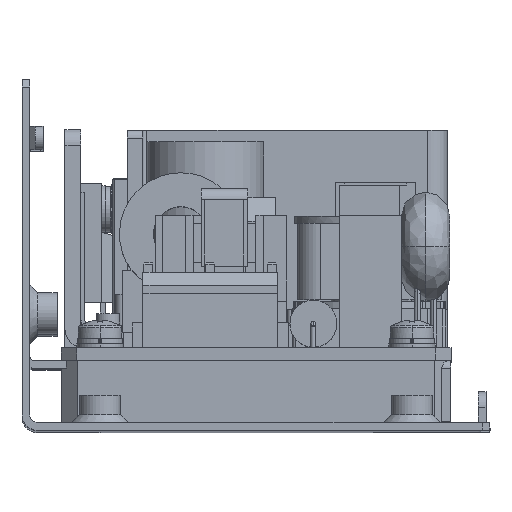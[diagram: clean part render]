
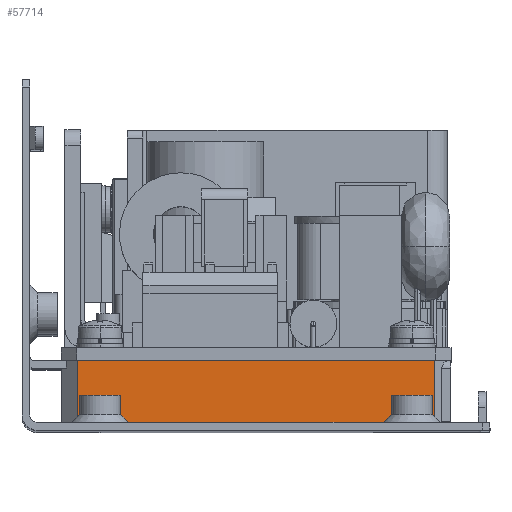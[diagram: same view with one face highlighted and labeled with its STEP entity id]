
A CAD part, top view. The second image highlights one B-rep face of the part: STEP entity #57714.
In plain terms, the highlighted planar face has unit normal (0, 0, 1).
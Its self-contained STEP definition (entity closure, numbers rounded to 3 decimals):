
#1052 = ORIENTED_EDGE ( 'NONE', *, *, #63672, .F. ) ;
#1053 = LINE ( 'NONE', #82294, #27582 ) ;
#4159 = VECTOR ( 'NONE', #10161, 1000. ) ;
#5118 = ORIENTED_EDGE ( 'NONE', *, *, #37741, .F. ) ;
#5932 = EDGE_CURVE ( 'NONE', #50158, #75539, #47134, .T. ) ;
#6220 = VECTOR ( 'NONE', #70125, 1000. ) ;
#7167 = CARTESIAN_POINT ( 'NONE',  ( -54.9, 9., -15.1 ) ) ;
#10096 = CARTESIAN_POINT ( 'NONE',  ( -7.1, 9., -15.1 ) ) ;
#10161 = DIRECTION ( 'NONE',  ( -1., 0., 0. ) ) ;
#15000 = CARTESIAN_POINT ( 'NONE',  ( -52.9, 1., -15.1 ) ) ;
#16505 = LINE ( 'NONE', #7167, #88461 ) ;
#17403 = ORIENTED_EDGE ( 'NONE', *, *, #63036, .F. ) ;
#18421 = ORIENTED_EDGE ( 'NONE', *, *, #80084, .F. ) ;
#19420 = CARTESIAN_POINT ( 'NONE',  ( -30., 1., -15.1 ) ) ;
#23115 = ORIENTED_EDGE ( 'NONE', *, *, #66814, .F. ) ;
#23508 = DIRECTION ( 'NONE',  ( -1., 0., 0. ) ) ;
#25220 = CARTESIAN_POINT ( 'NONE',  ( -13., 1., -15.1 ) ) ;
#27582 = VECTOR ( 'NONE', #73001, 1000. ) ;
#28860 = CARTESIAN_POINT ( 'NONE',  ( -52.9, 9., -15.1 ) ) ;
#30461 = ORIENTED_EDGE ( 'NONE', *, *, #61535, .F. ) ;
#31322 = DIRECTION ( 'NONE',  ( 0., 1., 0. ) ) ;
#32679 = CARTESIAN_POINT ( 'NONE',  ( -5.1, 1., -15.1 ) ) ;
#32812 = DIRECTION ( 'NONE',  ( -1., 0., 0. ) ) ;
#35064 = AXIS2_PLACEMENT_3D ( 'NONE', #51366, #42099, #32812 ) ;
#37741 = EDGE_CURVE ( 'NONE', #82004, #50158, #88772, .T. ) ;
#40606 = CARTESIAN_POINT ( 'NONE',  ( -52.9, 9., -15.1 ) ) ;
#41967 = LINE ( 'NONE', #32679, #56552 ) ;
#42099 = DIRECTION ( 'NONE',  ( 0., 0., -1. ) ) ;
#45596 = VERTEX_POINT ( 'NONE', #78124 ) ;
#46486 = PLANE ( 'NONE',  #35064 ) ;
#47134 = LINE ( 'NONE', #19420, #4159 ) ;
#49853 = LINE ( 'NONE', #40606, #58118 ) ;
#50158 = VERTEX_POINT ( 'NONE', #59465 ) ;
#51366 = CARTESIAN_POINT ( 'NONE',  ( -54.9, 9., -15.1 ) ) ;
#51997 = VERTEX_POINT ( 'NONE', #83735 ) ;
#52759 = DIRECTION ( 'NONE',  ( -1., 0., 0. ) ) ;
#56552 = VECTOR ( 'NONE', #23508, 1000. ) ;
#57714 = ADVANCED_FACE ( 'NONE', ( #84259 ), #46486, .F. ) ;
#58118 = VECTOR ( 'NONE', #31322, 1000. ) ;
#59465 = CARTESIAN_POINT ( 'NONE',  ( -7.1, 1., -15.1 ) ) ;
#60594 = VERTEX_POINT ( 'NONE', #15000 ) ;
#61535 = EDGE_CURVE ( 'NONE', #45596, #51997, #71363, .T. ) ;
#62033 = CARTESIAN_POINT ( 'NONE',  ( -30., 1., -15.1 ) ) ;
#63036 = EDGE_CURVE ( 'NONE', #75539, #45596, #1053, .T. ) ;
#63672 = EDGE_CURVE ( 'NONE', #60594, #84852, #49853, .T. ) ;
#66814 = EDGE_CURVE ( 'NONE', #84852, #82004, #16505, .T. ) ;
#67661 = VECTOR ( 'NONE', #52759, 1000. ) ;
#70125 = DIRECTION ( 'NONE',  ( 0., -1., 0. ) ) ;
#71363 = LINE ( 'NONE', #62033, #67661 ) ;
#73001 = DIRECTION ( 'NONE',  ( -1., 0., 0. ) ) ;
#75539 = VERTEX_POINT ( 'NONE', #25220 ) ;
#78124 = CARTESIAN_POINT ( 'NONE',  ( -15., 1., -15.1 ) ) ;
#79071 = EDGE_LOOP ( 'NONE', ( #30461, #17403, #82196, #5118, #23115, #1052, #18421 ) ) ;
#79465 = CARTESIAN_POINT ( 'NONE',  ( -7.1, 9., -15.1 ) ) ;
#80084 = EDGE_CURVE ( 'NONE', #51997, #60594, #41967, .T. ) ;
#82004 = VERTEX_POINT ( 'NONE', #10096 ) ;
#82196 = ORIENTED_EDGE ( 'NONE', *, *, #5932, .F. ) ;
#82294 = CARTESIAN_POINT ( 'NONE',  ( -5.1, 1., -15.1 ) ) ;
#83735 = CARTESIAN_POINT ( 'NONE',  ( -50., 1., -15.1 ) ) ;
#84259 = FACE_OUTER_BOUND ( 'NONE', #79071, .T. ) ;
#84852 = VERTEX_POINT ( 'NONE', #28860 ) ;
#88461 = VECTOR ( 'NONE', #88495, 1000. ) ;
#88495 = DIRECTION ( 'NONE',  ( 1., 0., 0. ) ) ;
#88772 = LINE ( 'NONE', #79465, #6220 ) ;
